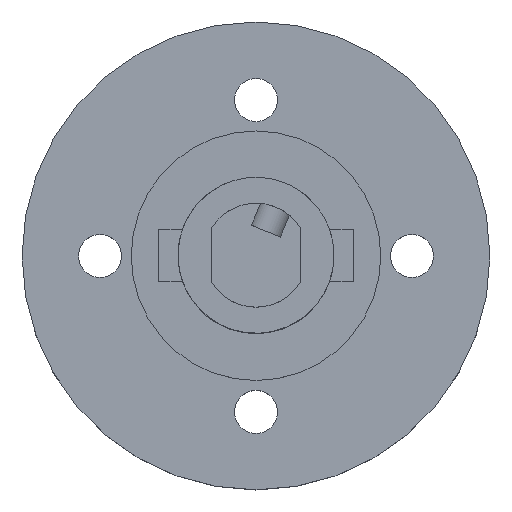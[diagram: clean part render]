
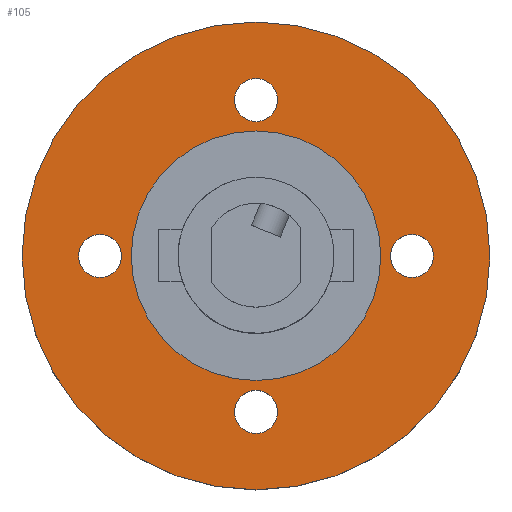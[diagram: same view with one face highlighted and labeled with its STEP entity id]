
A CAD part, top view. The second image highlights one B-rep face of the part: STEP entity #105.
In plain terms, the highlighted planar face has unit normal (0, 0, 1).
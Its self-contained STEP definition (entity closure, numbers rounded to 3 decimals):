
#21 = EDGE_CURVE('',#22,#22,#24,.T.);
#22 = VERTEX_POINT('',#23);
#23 = CARTESIAN_POINT('',(9.,0.,-4.4));
#24 = SURFACE_CURVE('',#25,(#30,#42),.PCURVE_S1.);
#25 = CIRCLE('',#26,9.);
#26 = AXIS2_PLACEMENT_3D('',#27,#28,#29);
#27 = CARTESIAN_POINT('',(0.,0.,-4.4));
#28 = DIRECTION('',(0.,0.,1.));
#29 = DIRECTION('',(1.,0.,-0.));
#30 = PCURVE('',#31,#36);
#31 = CYLINDRICAL_SURFACE('',#32,9.);
#32 = AXIS2_PLACEMENT_3D('',#33,#34,#35);
#33 = CARTESIAN_POINT('',(0.,0.,-7.4));
#34 = DIRECTION('',(0.,0.,1.));
#35 = DIRECTION('',(1.,0.,-0.));
#36 = DEFINITIONAL_REPRESENTATION('',(#37),#41);
#37 = LINE('',#38,#39);
#38 = CARTESIAN_POINT('',(0.,3.));
#39 = VECTOR('',#40,1.);
#40 = DIRECTION('',(1.,0.));
#41 = ( GEOMETRIC_REPRESENTATION_CONTEXT(2) 
PARAMETRIC_REPRESENTATION_CONTEXT() REPRESENTATION_CONTEXT('2D SPACE',''
  ) );
#42 = PCURVE('',#43,#48);
#43 = PLANE('',#44);
#44 = AXIS2_PLACEMENT_3D('',#45,#46,#47);
#45 = CARTESIAN_POINT('',(0.,0.,-4.4));
#46 = DIRECTION('',(0.,0.,1.));
#47 = DIRECTION('',(1.,0.,-0.));
#48 = DEFINITIONAL_REPRESENTATION('',(#49),#53);
#49 = CIRCLE('',#50,9.);
#50 = AXIS2_PLACEMENT_2D('',#51,#52);
#51 = CARTESIAN_POINT('',(0.,0.));
#52 = DIRECTION('',(1.,0.));
#53 = ( GEOMETRIC_REPRESENTATION_CONTEXT(2) 
PARAMETRIC_REPRESENTATION_CONTEXT() REPRESENTATION_CONTEXT('2D SPACE',''
  ) );
#105 = ADVANCED_FACE('',(#106,#109,#140,#171,#202,#233),#43,.T.);
#106 = FACE_BOUND('',#107,.T.);
#107 = EDGE_LOOP('',(#108));
#108 = ORIENTED_EDGE('',*,*,#21,.T.);
#109 = FACE_BOUND('',#110,.T.);
#110 = EDGE_LOOP('',(#111));
#111 = ORIENTED_EDGE('',*,*,#112,.F.);
#112 = EDGE_CURVE('',#113,#113,#115,.T.);
#113 = VERTEX_POINT('',#114);
#114 = CARTESIAN_POINT('',(0.83,-6.,-4.4));
#115 = SURFACE_CURVE('',#116,(#121,#128),.PCURVE_S1.);
#116 = CIRCLE('',#117,0.83);
#117 = AXIS2_PLACEMENT_3D('',#118,#119,#120);
#118 = CARTESIAN_POINT('',(0.,-6.,-4.4));
#119 = DIRECTION('',(0.,0.,1.));
#120 = DIRECTION('',(1.,0.,-0.));
#121 = PCURVE('',#43,#122);
#122 = DEFINITIONAL_REPRESENTATION('',(#123),#127);
#123 = CIRCLE('',#124,0.83);
#124 = AXIS2_PLACEMENT_2D('',#125,#126);
#125 = CARTESIAN_POINT('',(0.,-6.));
#126 = DIRECTION('',(1.,0.));
#127 = ( GEOMETRIC_REPRESENTATION_CONTEXT(2) 
PARAMETRIC_REPRESENTATION_CONTEXT() REPRESENTATION_CONTEXT('2D SPACE',''
  ) );
#128 = PCURVE('',#129,#134);
#129 = CYLINDRICAL_SURFACE('',#130,0.83);
#130 = AXIS2_PLACEMENT_3D('',#131,#132,#133);
#131 = CARTESIAN_POINT('',(0.,-6.,-7.41));
#132 = DIRECTION('',(0.,0.,1.));
#133 = DIRECTION('',(1.,0.,-0.));
#134 = DEFINITIONAL_REPRESENTATION('',(#135),#139);
#135 = LINE('',#136,#137);
#136 = CARTESIAN_POINT('',(0.,3.01));
#137 = VECTOR('',#138,1.);
#138 = DIRECTION('',(1.,0.));
#139 = ( GEOMETRIC_REPRESENTATION_CONTEXT(2) 
PARAMETRIC_REPRESENTATION_CONTEXT() REPRESENTATION_CONTEXT('2D SPACE',''
  ) );
#140 = FACE_BOUND('',#141,.T.);
#141 = EDGE_LOOP('',(#142));
#142 = ORIENTED_EDGE('',*,*,#143,.F.);
#143 = EDGE_CURVE('',#144,#144,#146,.T.);
#144 = VERTEX_POINT('',#145);
#145 = CARTESIAN_POINT('',(-5.17,0.,-4.4));
#146 = SURFACE_CURVE('',#147,(#152,#159),.PCURVE_S1.);
#147 = CIRCLE('',#148,0.83);
#148 = AXIS2_PLACEMENT_3D('',#149,#150,#151);
#149 = CARTESIAN_POINT('',(-6.,0.,-4.4));
#150 = DIRECTION('',(0.,0.,1.));
#151 = DIRECTION('',(1.,0.,-0.));
#152 = PCURVE('',#43,#153);
#153 = DEFINITIONAL_REPRESENTATION('',(#154),#158);
#154 = CIRCLE('',#155,0.83);
#155 = AXIS2_PLACEMENT_2D('',#156,#157);
#156 = CARTESIAN_POINT('',(-6.,0.));
#157 = DIRECTION('',(1.,0.));
#158 = ( GEOMETRIC_REPRESENTATION_CONTEXT(2) 
PARAMETRIC_REPRESENTATION_CONTEXT() REPRESENTATION_CONTEXT('2D SPACE',''
  ) );
#159 = PCURVE('',#160,#165);
#160 = CYLINDRICAL_SURFACE('',#161,0.83);
#161 = AXIS2_PLACEMENT_3D('',#162,#163,#164);
#162 = CARTESIAN_POINT('',(-6.,0.,-7.41));
#163 = DIRECTION('',(0.,0.,1.));
#164 = DIRECTION('',(1.,0.,-0.));
#165 = DEFINITIONAL_REPRESENTATION('',(#166),#170);
#166 = LINE('',#167,#168);
#167 = CARTESIAN_POINT('',(0.,3.01));
#168 = VECTOR('',#169,1.);
#169 = DIRECTION('',(1.,0.));
#170 = ( GEOMETRIC_REPRESENTATION_CONTEXT(2) 
PARAMETRIC_REPRESENTATION_CONTEXT() REPRESENTATION_CONTEXT('2D SPACE',''
  ) );
#171 = FACE_BOUND('',#172,.T.);
#172 = EDGE_LOOP('',(#173));
#173 = ORIENTED_EDGE('',*,*,#174,.F.);
#174 = EDGE_CURVE('',#175,#175,#177,.T.);
#175 = VERTEX_POINT('',#176);
#176 = CARTESIAN_POINT('',(3.,0.,-4.4));
#177 = SURFACE_CURVE('',#178,(#183,#190),.PCURVE_S1.);
#178 = CIRCLE('',#179,3.);
#179 = AXIS2_PLACEMENT_3D('',#180,#181,#182);
#180 = CARTESIAN_POINT('',(0.,0.,-4.4));
#181 = DIRECTION('',(0.,0.,1.));
#182 = DIRECTION('',(1.,0.,-0.));
#183 = PCURVE('',#43,#184);
#184 = DEFINITIONAL_REPRESENTATION('',(#185),#189);
#185 = CIRCLE('',#186,3.);
#186 = AXIS2_PLACEMENT_2D('',#187,#188);
#187 = CARTESIAN_POINT('',(0.,0.));
#188 = DIRECTION('',(1.,0.));
#189 = ( GEOMETRIC_REPRESENTATION_CONTEXT(2) 
PARAMETRIC_REPRESENTATION_CONTEXT() REPRESENTATION_CONTEXT('2D SPACE',''
  ) );
#190 = PCURVE('',#191,#196);
#191 = CYLINDRICAL_SURFACE('',#192,3.);
#192 = AXIS2_PLACEMENT_3D('',#193,#194,#195);
#193 = CARTESIAN_POINT('',(0.,0.,-4.4));
#194 = DIRECTION('',(0.,0.,1.));
#195 = DIRECTION('',(1.,0.,-0.));
#196 = DEFINITIONAL_REPRESENTATION('',(#197),#201);
#197 = LINE('',#198,#199);
#198 = CARTESIAN_POINT('',(0.,0.));
#199 = VECTOR('',#200,1.);
#200 = DIRECTION('',(1.,0.));
#201 = ( GEOMETRIC_REPRESENTATION_CONTEXT(2) 
PARAMETRIC_REPRESENTATION_CONTEXT() REPRESENTATION_CONTEXT('2D SPACE',''
  ) );
#202 = FACE_BOUND('',#203,.T.);
#203 = EDGE_LOOP('',(#204));
#204 = ORIENTED_EDGE('',*,*,#205,.F.);
#205 = EDGE_CURVE('',#206,#206,#208,.T.);
#206 = VERTEX_POINT('',#207);
#207 = CARTESIAN_POINT('',(6.83,0.,-4.4));
#208 = SURFACE_CURVE('',#209,(#214,#221),.PCURVE_S1.);
#209 = CIRCLE('',#210,0.83);
#210 = AXIS2_PLACEMENT_3D('',#211,#212,#213);
#211 = CARTESIAN_POINT('',(6.,0.,-4.4));
#212 = DIRECTION('',(0.,0.,1.));
#213 = DIRECTION('',(1.,0.,-0.));
#214 = PCURVE('',#43,#215);
#215 = DEFINITIONAL_REPRESENTATION('',(#216),#220);
#216 = CIRCLE('',#217,0.83);
#217 = AXIS2_PLACEMENT_2D('',#218,#219);
#218 = CARTESIAN_POINT('',(6.,0.));
#219 = DIRECTION('',(1.,0.));
#220 = ( GEOMETRIC_REPRESENTATION_CONTEXT(2) 
PARAMETRIC_REPRESENTATION_CONTEXT() REPRESENTATION_CONTEXT('2D SPACE',''
  ) );
#221 = PCURVE('',#222,#227);
#222 = CYLINDRICAL_SURFACE('',#223,0.83);
#223 = AXIS2_PLACEMENT_3D('',#224,#225,#226);
#224 = CARTESIAN_POINT('',(6.,0.,-7.41));
#225 = DIRECTION('',(0.,0.,1.));
#226 = DIRECTION('',(1.,0.,-0.));
#227 = DEFINITIONAL_REPRESENTATION('',(#228),#232);
#228 = LINE('',#229,#230);
#229 = CARTESIAN_POINT('',(0.,3.01));
#230 = VECTOR('',#231,1.);
#231 = DIRECTION('',(1.,0.));
#232 = ( GEOMETRIC_REPRESENTATION_CONTEXT(2) 
PARAMETRIC_REPRESENTATION_CONTEXT() REPRESENTATION_CONTEXT('2D SPACE',''
  ) );
#233 = FACE_BOUND('',#234,.T.);
#234 = EDGE_LOOP('',(#235));
#235 = ORIENTED_EDGE('',*,*,#236,.F.);
#236 = EDGE_CURVE('',#237,#237,#239,.T.);
#237 = VERTEX_POINT('',#238);
#238 = CARTESIAN_POINT('',(0.83,6.,-4.4));
#239 = SURFACE_CURVE('',#240,(#245,#252),.PCURVE_S1.);
#240 = CIRCLE('',#241,0.83);
#241 = AXIS2_PLACEMENT_3D('',#242,#243,#244);
#242 = CARTESIAN_POINT('',(0.,6.,-4.4));
#243 = DIRECTION('',(0.,0.,1.));
#244 = DIRECTION('',(1.,0.,-0.));
#245 = PCURVE('',#43,#246);
#246 = DEFINITIONAL_REPRESENTATION('',(#247),#251);
#247 = CIRCLE('',#248,0.83);
#248 = AXIS2_PLACEMENT_2D('',#249,#250);
#249 = CARTESIAN_POINT('',(0.,6.));
#250 = DIRECTION('',(1.,0.));
#251 = ( GEOMETRIC_REPRESENTATION_CONTEXT(2) 
PARAMETRIC_REPRESENTATION_CONTEXT() REPRESENTATION_CONTEXT('2D SPACE',''
  ) );
#252 = PCURVE('',#253,#258);
#253 = CYLINDRICAL_SURFACE('',#254,0.83);
#254 = AXIS2_PLACEMENT_3D('',#255,#256,#257);
#255 = CARTESIAN_POINT('',(0.,6.,-7.41));
#256 = DIRECTION('',(0.,0.,1.));
#257 = DIRECTION('',(1.,0.,-0.));
#258 = DEFINITIONAL_REPRESENTATION('',(#259),#263);
#259 = LINE('',#260,#261);
#260 = CARTESIAN_POINT('',(0.,3.01));
#261 = VECTOR('',#262,1.);
#262 = DIRECTION('',(1.,0.));
#263 = ( GEOMETRIC_REPRESENTATION_CONTEXT(2) 
PARAMETRIC_REPRESENTATION_CONTEXT() REPRESENTATION_CONTEXT('2D SPACE',''
  ) );
